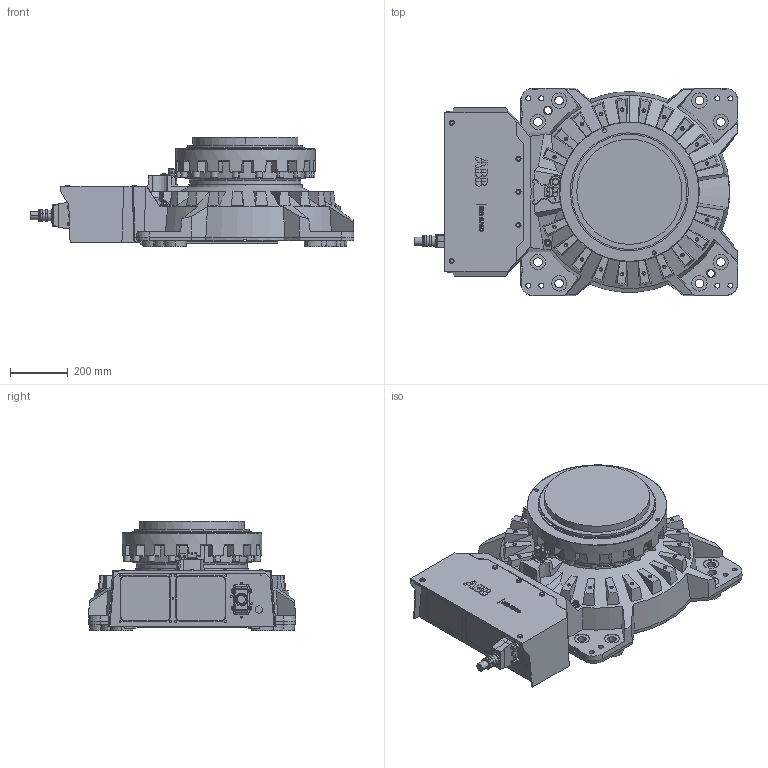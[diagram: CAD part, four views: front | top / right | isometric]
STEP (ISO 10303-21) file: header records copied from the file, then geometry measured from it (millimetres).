
FILE_DESCRIPTION (( 'STEP AP214' ), '1' );
FILE_NAME ('IRB6760_All_OC_00_BASE_CAD.step', '2025-09-30T13:15:13', ( '' ), ( '' ), 'SwSTEP 2.0', 'SolidWorks 2024', '' );
FILE_SCHEMA (( 'AUTOMOTIVE_DESIGN' ));
Length unit declared in the file: millimetre
Products named in the file (1): IRB6760_All_OC_00_BASE_CAD
Bounding box: 1124.5 x 720 x 378.5 mm (x, y, z)
Volume: 114558134.7 mm3; surface area: 3019787.6 mm2
Topology: 1 solids, 2 shells, 1519 faces, 3883 edges, 2484 vertices
Faces by surface type: plane 793, cylinder 381, cone 281, bspline 53, torus 7, sphere 4
Entity records: 66606 total; most frequent: CARTESIAN_POINT 13497, ORIENTED_EDGE 7678, DIRECTION 7435, EDGE_CURVE 3839, AXIS2_PLACEMENT_3D 2699, VERTEX_POINT 2484, LINE 2037, VECTOR 2037
